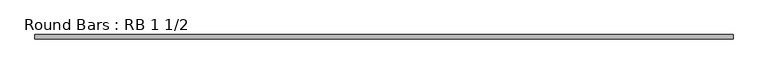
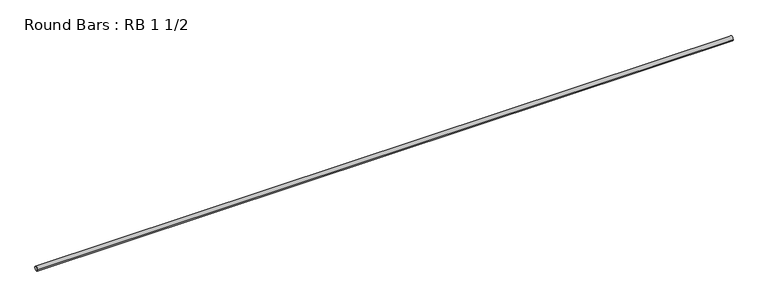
"""IFC4 building model written with IfcOpenShell, lengths in millimetres: member geometry, Round Bars : RB 1 1/2."""

from ifc_helpers import new_model, si_unit, point, frame, origin, origin_2d, place, context, project, spatial, circle_curve, trimmed, segment, composite_curve, outline, extrude, source, transform, mapped, element, save


def round_bars_rb_1_1_2_675568ba(model_context):
    return source(origin(), model_context, "Body", "SweptSolid", [
        extrude(outline(composite_curve([segment(trimmed(circle_curve(origin_2d(), 19.05), [point((19.05, 0.0))], [point((-19.05, 0.0))], False, "CARTESIAN"), True, "CONTINUOUS"), segment(trimmed(circle_curve(origin_2d(), 19.05), [point((-19.05, 0.0))], [point((19.05, 0.0))], False, "CARTESIAN"), True, "CONTINUOUS")], self_intersect=False)), frame((-2813.1735627, 0.0, 0.0), z_axis=(1.0, 0.0, 0.0), x_axis=(0.0, 1.0, 0.0)), (0.0, 0.0, 1.0), 5895.3230102),
    ])


if __name__ == "__main__":
    model = new_model("IFC4")
    model_context = context("Model", 3, world=origin())
    ifc_project = project(units=[si_unit("LENGTHUNIT", "METRE", prefix="MILLI")], contexts=[model_context])
    site = spatial("IfcSite", under=ifc_project)
    building = spatial("IfcBuilding", under=site)
    placement = place(None, origin())
    round_bars_rb_1_1_2_shape = round_bars_rb_1_1_2_675568ba(model_context)
    element("IfcMember", 1, ObjectType="Round Bars : RB 1 1/2", at=placement, inside=building, context=model_context, shape_type="MappedRepresentation", body=[
        mapped(round_bars_rb_1_1_2_shape, transform((0.0, 0.0, 0.0), x_axis=(1.0, 0.0, 0.0), y_axis=(0.0, 1.0, 0.0), z_axis=(0.0, 0.0, 1.0))),
    ])
    save(model, "model.ifc")
